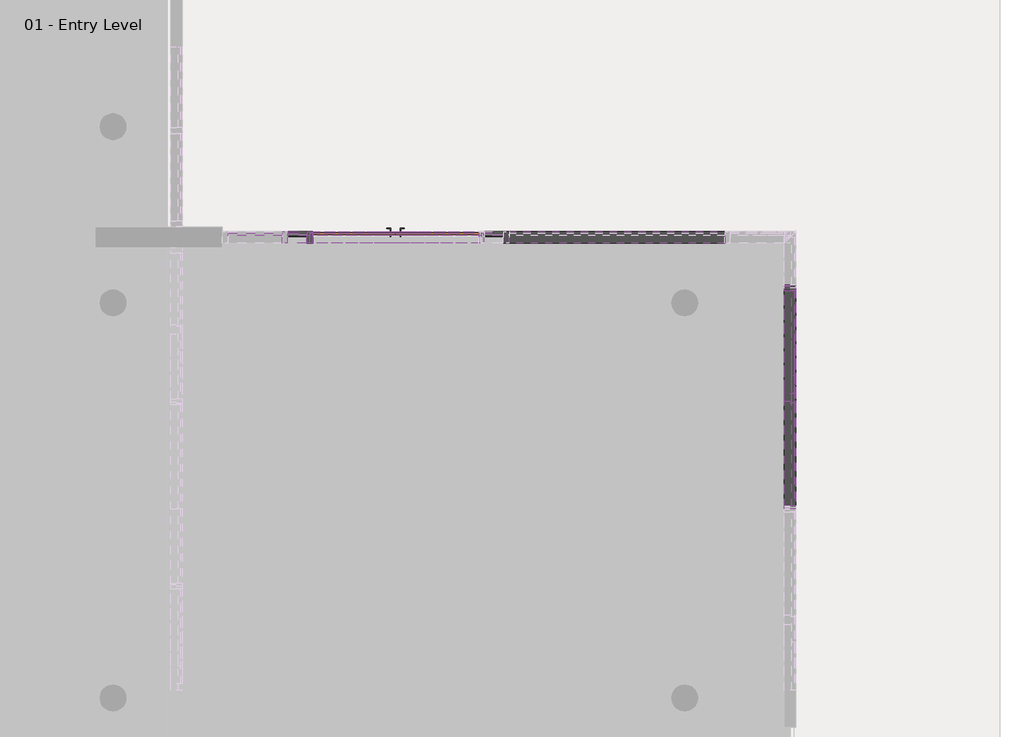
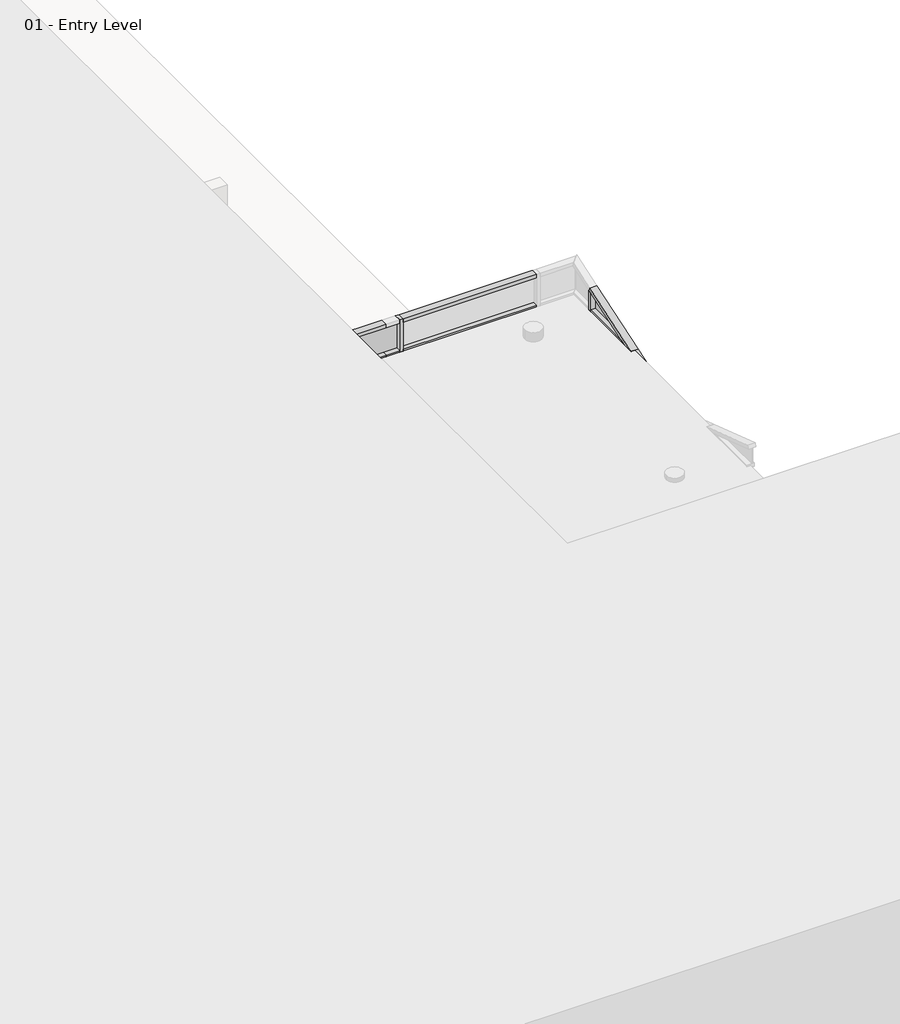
# One storey, part 16 of 34: 93 members, 29 plates, 1 door.
"""IFC4 building model written with IfcOpenShell, lengths in millimetres."""

from ifc_helpers import new_model, si_unit, origin, place, context, project, spatial, transform, mapped, element, save
from components import curtain_wall_dbl_glass_curtain_wall_dbl_glass_a5de0235, member_6e77e263, member_89bfb2f9, member_85cc6aa7, member_474f9ece, member_fce4fd76, member_056e3271, member_b2bde9e6, member_5d67b9fc, member_a5966c2a, member_aa396729, member_420b45ef, member_d60e8053, member_51dbde35, member_30b3e1b1, member_80bb9b3a, member_75d1e245, system_panel_glazed_1068a10c, system_panel_glazed_a178916c, system_panel_glazed_5992a3c5, system_panel_glazed_079f77b7, system_panel_glazed_0805a858, system_panel_glazed_439dd39a, system_panel_glazed_7ab8f380, system_panel_glazed_5ffb59d1, system_panel_glazed_9c9336f7, system_panel_glazed_ea9774ea

model = new_model("IFC4")

# Units and contexts
model_context = context("Model", 3, world=origin())
ifc_project = project(units=[si_unit("LENGTHUNIT", "METRE", prefix="MILLI")], contexts=[model_context])

# Site, building, storey
site = spatial("IfcSite", under=ifc_project)
building = spatial("IfcBuilding", under=site)
storey = spatial("IfcBuildingStorey", under=building, Name="01 - Entry Level", Elevation=0.0)

# Door
placement = place(None, origin())
curtain_wall_dbl_glass_curtain_wall_dbl_glass_shape = curtain_wall_dbl_glass_curtain_wall_dbl_glass_a5de0235(model_context)
element("IfcDoor", 1, ObjectType="Curtain Wall Dbl Glass : Curtain Wall Dbl Glass", at=placement, inside=storey, context=model_context, shape_type="MappedRepresentation", body=[
    mapped(curtain_wall_dbl_glass_curtain_wall_dbl_glass_shape, transform((19598.7615197, 22545.6, 0.0), x_axis=(-1.0, 0.0, 0.0), y_axis=(0.0, -1.0, 0.0), z_axis=(0.0, 0.0, 1.0))),
])

# Members
member_shape = member_6e77e263(model_context)
element("IfcMember", 2, ObjectType="Rectangular Mullion : 2.5\" x 5\" rectangular", at=placement, inside=storey, context=model_context, shape_type="MappedRepresentation", body=[
    mapped(member_shape, transform((20817.9615197, 22545.6, 0.0), x_axis=(-1.0, 0.0, 0.0), y_axis=(0.0, 1.0, 0.0), z_axis=(0.0, 0.0, -1.0))),
])
element("IfcMember", 3, ObjectType="Rectangular Mullion : 2.5\" x 5\" rectangular", at=placement, inside=storey, context=model_context, shape_type="MappedRepresentation", body=[
    mapped(member_shape, transform((23947.0115197, 21986.8, 0.0), x_axis=(0.0, 1.0, 0.0), y_axis=(1.0, 0.0, 0.0), z_axis=(0.0, 0.0, -1.0))),
])
element("IfcMember", 4, ObjectType="Rectangular Mullion : 2.5\" x 5\" rectangular", at=placement, inside=storey, context=model_context, shape_type="MappedRepresentation", body=[
    mapped(member_shape, transform((20817.9615197, 22545.6, 609.6), x_axis=(-1.0, 0.0, 0.0), y_axis=(0.0, 1.0, 0.0), z_axis=(0.0, 0.0, -1.0))),
])
element("IfcMember", 5, ObjectType="Rectangular Mullion : 2.5\" x 5\" rectangular", at=placement, inside=storey, context=model_context, shape_type="MappedRepresentation", body=[
    mapped(member_shape, transform((20817.9615197, 22545.6, 1219.2), x_axis=(-1.0, 0.0, 0.0), y_axis=(0.0, 1.0, 0.0), z_axis=(0.0, 0.0, -1.0))),
])
element("IfcMember", 6, ObjectType="Rectangular Mullion : 2.5\" x 5\" rectangular", at=placement, inside=storey, context=model_context, shape_type="MappedRepresentation", body=[
    mapped(member_shape, transform((18379.5615197, 22545.6, 1219.2), x_axis=(-1.0, 0.0, 0.0), y_axis=(0.0, 1.0, 0.0), z_axis=(0.0, 0.0, -1.0))),
])
element("IfcMember", 7, ObjectType="Rectangular Mullion : 2.5\" x 5\" rectangular", at=placement, inside=storey, context=model_context, shape_type="MappedRepresentation", body=[
    mapped(member_shape, transform((20817.9615197, 22545.6, 2438.4), x_axis=(-1.0, 0.0, 0.0), y_axis=(0.0, 1.0, 0.0), z_axis=(0.0, 0.0, -1.0))),
])
element("IfcMember", 8, ObjectType="Rectangular Mullion : 2.5\" x 5\" rectangular", at=placement, inside=storey, context=model_context, shape_type="MappedRepresentation", body=[
    mapped(member_shape, transform((18379.5615197, 22545.6, 2438.4), x_axis=(-1.0, 0.0, 0.0), y_axis=(0.0, 1.0, 0.0), z_axis=(0.0, 0.0, -1.0))),
])
element("IfcMember", 9, ObjectType="Rectangular Mullion : 2.5\" x 5\" rectangular", at=placement, inside=storey, context=model_context, shape_type="MappedRepresentation", body=[
    mapped(member_shape, transform((20817.9615197, 22545.6, 3048.0), x_axis=(-1.0, 0.0, 0.0), y_axis=(0.0, 1.0, 0.0), z_axis=(0.0, 0.0, -1.0))),
])
element("IfcMember", 10, ObjectType="Rectangular Mullion : 2.5\" x 5\" rectangular", at=placement, inside=storey, context=model_context, shape_type="MappedRepresentation", body=[
    mapped(member_shape, transform((18379.5615197, 22545.6, 3048.0), x_axis=(-1.0, 0.0, 0.0), y_axis=(0.0, 1.0, 0.0), z_axis=(0.0, 0.0, -1.0))),
])
element("IfcMember", 11, ObjectType="Rectangular Mullion : 2.5\" x 5\" rectangular", at=placement, inside=storey, context=model_context, shape_type="MappedRepresentation", body=[
    mapped(member_shape, transform((23947.0115197, 21986.8, 609.6), x_axis=(0.0, 1.0, 0.0), y_axis=(1.0, 0.0, 0.0), z_axis=(0.0, 0.0, -1.0))),
])
element("IfcMember", 12, ObjectType="Rectangular Mullion : 2.5\" x 5\" rectangular", at=placement, inside=storey, context=model_context, shape_type="MappedRepresentation", body=[
    mapped(member_shape, transform((23947.0115197, 21986.8, 1219.2), x_axis=(0.0, 1.0, 0.0), y_axis=(1.0, 0.0, 0.0), z_axis=(0.0, 0.0, -1.0))),
])
element("IfcMember", 13, ObjectType="Rectangular Mullion : 2.5\" x 5\" rectangular", at=placement, inside=storey, context=model_context, shape_type="MappedRepresentation", body=[
    mapped(member_shape, transform((23947.0115197, 21986.8, 1828.8), x_axis=(0.0, 1.0, 0.0), y_axis=(1.0, 0.0, 0.0), z_axis=(0.0, 0.0, -1.0))),
])
element("IfcMember", 14, ObjectType="Rectangular Mullion : 2.5\" x 5\" rectangular", at=placement, inside=storey, context=model_context, shape_type="MappedRepresentation", body=[
    mapped(member_shape, transform((23947.0115197, 21986.8, 2438.4), x_axis=(0.0, 1.0, 0.0), y_axis=(1.0, 0.0, 0.0), z_axis=(0.0, 0.0, -1.0))),
])
element("IfcMember", 15, ObjectType="Rectangular Mullion : 2.5\" x 5\" rectangular", at=placement, inside=storey, context=model_context, shape_type="MappedRepresentation", body=[
    mapped(member_shape, transform((23947.0115197, 21986.8, 3048.0), x_axis=(0.0, 1.0, 0.0), y_axis=(1.0, 0.0, 0.0), z_axis=(0.0, 0.0, -1.0))),
])
element("IfcMember", 16, ObjectType="Rectangular Mullion : 2.5\" x 5\" rectangular", at=placement, inside=storey, context=model_context, shape_type="MappedRepresentation", body=[
    mapped(member_shape, transform((23947.0115197, 21986.8, 3657.6), x_axis=(0.0, 1.0, 0.0), y_axis=(1.0, 0.0, 0.0), z_axis=(0.0, 0.0, -1.0))),
])
element("IfcMember", 17, ObjectType="Rectangular Mullion : 2.5\" x 5\" rectangular", at=placement, inside=storey, context=model_context, shape_type="MappedRepresentation", body=[
    mapped(member_shape, transform((23947.0115197, 21986.8, 4267.2), x_axis=(0.0, 1.0, 0.0), y_axis=(1.0, 0.0, 0.0), z_axis=(0.0, 0.0, -1.0))),
])
element("IfcMember", 18, ObjectType="Rectangular Mullion : 2.5\" x 5\" rectangular", at=placement, inside=storey, context=model_context, shape_type="MappedRepresentation", body=[
    mapped(member_shape, transform((23947.0115197, 21986.8, 4876.8), x_axis=(0.0, 1.0, 0.0), y_axis=(1.0, 0.0, 0.0), z_axis=(0.0, 0.0, -1.0))),
])
element("IfcMember", 19, ObjectType="Rectangular Mullion : 2.5\" x 5\" rectangular", at=placement, inside=storey, context=model_context, shape_type="MappedRepresentation", body=[
    mapped(member_shape, transform((23947.0115197, 21986.8, 5486.4), x_axis=(0.0, 1.0, 0.0), y_axis=(1.0, 0.0, 0.0), z_axis=(0.0, 0.0, -1.0))),
])
element("IfcMember", 20, ObjectType="Rectangular Mullion : 2.5\" x 5\" rectangular", at=placement, inside=storey, context=model_context, shape_type="MappedRepresentation", body=[
    mapped(member_shape, transform((23947.0115197, 21986.8, 6096.0), x_axis=(0.0, 1.0, 0.0), y_axis=(1.0, 0.0, 0.0), z_axis=(0.0, 0.0, -1.0))),
])
element("IfcMember", 21, ObjectType="Rectangular Mullion : 2.5\" x 5\" rectangular", at=placement, inside=storey, context=model_context, shape_type="MappedRepresentation", body=[
    mapped(member_shape, transform((20817.9615197, 22545.6, 3657.6), x_axis=(-1.0, 0.0, 0.0), y_axis=(0.0, 1.0, 0.0), z_axis=(0.0, 0.0, -1.0))),
])
element("IfcMember", 22, ObjectType="Rectangular Mullion : 2.5\" x 5\" rectangular", at=placement, inside=storey, context=model_context, shape_type="MappedRepresentation", body=[
    mapped(member_shape, transform((20817.9615197, 22545.6, 4267.2), x_axis=(-1.0, 0.0, 0.0), y_axis=(0.0, 1.0, 0.0), z_axis=(0.0, 0.0, -1.0))),
])
element("IfcMember", 23, ObjectType="Rectangular Mullion : 2.5\" x 5\" rectangular", at=placement, inside=storey, context=model_context, shape_type="MappedRepresentation", body=[
    mapped(member_shape, transform((20817.9615197, 22545.6, 4876.8), x_axis=(-1.0, 0.0, 0.0), y_axis=(0.0, 1.0, 0.0), z_axis=(0.0, 0.0, -1.0))),
])
element("IfcMember", 24, ObjectType="Rectangular Mullion : 2.5\" x 5\" rectangular", at=placement, inside=storey, context=model_context, shape_type="MappedRepresentation", body=[
    mapped(member_shape, transform((20817.9615197, 22545.6, 5486.4), x_axis=(-1.0, 0.0, 0.0), y_axis=(0.0, 1.0, 0.0), z_axis=(0.0, 0.0, -1.0))),
])
element("IfcMember", 25, ObjectType="Rectangular Mullion : 2.5\" x 5\" rectangular", at=placement, inside=storey, context=model_context, shape_type="MappedRepresentation", body=[
    mapped(member_shape, transform((20817.9615197, 22545.6, 6096.0), x_axis=(-1.0, 0.0, 0.0), y_axis=(0.0, 1.0, 0.0), z_axis=(0.0, 0.0, -1.0))),
])
element("IfcMember", 26, ObjectType="Rectangular Mullion : 2.5\" x 5\" rectangular", at=placement, inside=storey, context=model_context, shape_type="MappedRepresentation", body=[
    mapped(member_shape, transform((18379.5615197, 22545.6, 3657.6), x_axis=(-1.0, 0.0, 0.0), y_axis=(0.0, 1.0, 0.0), z_axis=(0.0, 0.0, -1.0))),
])
element("IfcMember", 27, ObjectType="Rectangular Mullion : 2.5\" x 5\" rectangular", at=placement, inside=storey, context=model_context, shape_type="MappedRepresentation", body=[
    mapped(member_shape, transform((18379.5615197, 22545.6, 4267.2), x_axis=(-1.0, 0.0, 0.0), y_axis=(0.0, 1.0, 0.0), z_axis=(0.0, 0.0, -1.0))),
])
element("IfcMember", 28, ObjectType="Rectangular Mullion : 2.5\" x 5\" rectangular", at=placement, inside=storey, context=model_context, shape_type="MappedRepresentation", body=[
    mapped(member_shape, transform((18379.5615197, 22545.6, 4876.8), x_axis=(-1.0, 0.0, 0.0), y_axis=(0.0, 1.0, 0.0), z_axis=(0.0, 0.0, -1.0))),
])
element("IfcMember", 29, ObjectType="Rectangular Mullion : 2.5\" x 5\" rectangular", at=placement, inside=storey, context=model_context, shape_type="MappedRepresentation", body=[
    mapped(member_shape, transform((18379.5615197, 22545.6, 5486.4), x_axis=(-1.0, 0.0, 0.0), y_axis=(0.0, 1.0, 0.0), z_axis=(0.0, 0.0, -1.0))),
])
element("IfcMember", 30, ObjectType="Rectangular Mullion : 2.5\" x 5\" rectangular", at=placement, inside=storey, context=model_context, shape_type="MappedRepresentation", body=[
    mapped(member_shape, transform((18379.5615197, 22545.6, 6096.0), x_axis=(-1.0, 0.0, 0.0), y_axis=(0.0, 1.0, 0.0), z_axis=(0.0, 0.0, -1.0))),
])
member_2_shape = member_89bfb2f9(model_context)
element("IfcMember", 31, ObjectType="Rectangular Mullion : 2.5\" x 5\" rectangular", at=placement, inside=storey, context=model_context, shape_type="MappedRepresentation", body=[
    mapped(member_2_shape, transform((20849.7115197, 22545.6, 609.6), x_axis=(0.0, 0.0, 1.0), y_axis=(0.0, 1.0, 0.0), z_axis=(-1.0, 0.0, 0.0))),
])
element("IfcMember", 32, ObjectType="Rectangular Mullion : 2.5\" x 5\" rectangular", at=placement, inside=storey, context=model_context, shape_type="MappedRepresentation", body=[
    mapped(member_2_shape, transform((20849.7115197, 22545.6, 1219.2), x_axis=(0.0, 0.0, 1.0), y_axis=(0.0, 1.0, 0.0), z_axis=(-1.0, 0.0, 0.0))),
])
element("IfcMember", 33, ObjectType="Rectangular Mullion : 2.5\" x 5\" rectangular", at=placement, inside=storey, context=model_context, shape_type="MappedRepresentation", body=[
    mapped(member_2_shape, transform((20849.7115197, 22545.6, 1828.8), x_axis=(0.0, 0.0, 1.0), y_axis=(0.0, 1.0, 0.0), z_axis=(-1.0, 0.0, 0.0))),
])
element("IfcMember", 34, ObjectType="Rectangular Mullion : 2.5\" x 5\" rectangular", at=placement, inside=storey, context=model_context, shape_type="MappedRepresentation", body=[
    mapped(member_2_shape, transform((20849.7115197, 22545.6, 2438.4), x_axis=(0.0, 0.0, 1.0), y_axis=(0.0, 1.0, 0.0), z_axis=(-1.0, 0.0, 0.0))),
])
element("IfcMember", 35, ObjectType="Rectangular Mullion : 2.5\" x 5\" rectangular", at=placement, inside=storey, context=model_context, shape_type="MappedRepresentation", body=[
    mapped(member_2_shape, transform((20849.7115197, 22545.6, 3048.0), x_axis=(0.0, 0.0, 1.0), y_axis=(0.0, 1.0, 0.0), z_axis=(-1.0, 0.0, 0.0))),
])
element("IfcMember", 36, ObjectType="Rectangular Mullion : 2.5\" x 5\" rectangular", at=placement, inside=storey, context=model_context, shape_type="MappedRepresentation", body=[
    mapped(member_2_shape, transform((23947.0115197, 21955.05, 609.6), x_axis=(0.0, 0.0, 1.0), y_axis=(1.0, 0.0, 0.0), z_axis=(0.0, 1.0, 0.0))),
])
element("IfcMember", 37, ObjectType="Rectangular Mullion : 2.5\" x 5\" rectangular", at=placement, inside=storey, context=model_context, shape_type="MappedRepresentation", body=[
    mapped(member_2_shape, transform((23947.0115197, 21955.05, 1219.2), x_axis=(0.0, 0.0, 1.0), y_axis=(1.0, 0.0, 0.0), z_axis=(0.0, 1.0, 0.0))),
])
element("IfcMember", 38, ObjectType="Rectangular Mullion : 2.5\" x 5\" rectangular", at=placement, inside=storey, context=model_context, shape_type="MappedRepresentation", body=[
    mapped(member_2_shape, transform((23947.0115197, 21955.05, 1828.8), x_axis=(0.0, 0.0, 1.0), y_axis=(1.0, 0.0, 0.0), z_axis=(0.0, 1.0, 0.0))),
])
element("IfcMember", 39, ObjectType="Rectangular Mullion : 2.5\" x 5\" rectangular", at=placement, inside=storey, context=model_context, shape_type="MappedRepresentation", body=[
    mapped(member_2_shape, transform((23947.0115197, 21955.05, 2438.4), x_axis=(0.0, 0.0, 1.0), y_axis=(1.0, 0.0, 0.0), z_axis=(0.0, 1.0, 0.0))),
])
element("IfcMember", 40, ObjectType="Rectangular Mullion : 2.5\" x 5\" rectangular", at=placement, inside=storey, context=model_context, shape_type="MappedRepresentation", body=[
    mapped(member_2_shape, transform((23947.0115197, 21955.05, 3048.0), x_axis=(0.0, 0.0, 1.0), y_axis=(1.0, 0.0, 0.0), z_axis=(0.0, 1.0, 0.0))),
])
element("IfcMember", 41, ObjectType="Rectangular Mullion : 2.5\" x 5\" rectangular", at=placement, inside=storey, context=model_context, shape_type="MappedRepresentation", body=[
    mapped(member_2_shape, transform((23947.0115197, 21955.05, 3657.6), x_axis=(0.0, 0.0, 1.0), y_axis=(1.0, 0.0, 0.0), z_axis=(0.0, 1.0, 0.0))),
])
element("IfcMember", 42, ObjectType="Rectangular Mullion : 2.5\" x 5\" rectangular", at=placement, inside=storey, context=model_context, shape_type="MappedRepresentation", body=[
    mapped(member_2_shape, transform((23947.0115197, 21955.05, 4267.2), x_axis=(0.0, 0.0, 1.0), y_axis=(1.0, 0.0, 0.0), z_axis=(0.0, 1.0, 0.0))),
])
element("IfcMember", 43, ObjectType="Rectangular Mullion : 2.5\" x 5\" rectangular", at=placement, inside=storey, context=model_context, shape_type="MappedRepresentation", body=[
    mapped(member_2_shape, transform((23947.0115197, 21955.05, 4876.8), x_axis=(0.0, 0.0, 1.0), y_axis=(1.0, 0.0, 0.0), z_axis=(0.0, 1.0, 0.0))),
])
element("IfcMember", 44, ObjectType="Rectangular Mullion : 2.5\" x 5\" rectangular", at=placement, inside=storey, context=model_context, shape_type="MappedRepresentation", body=[
    mapped(member_2_shape, transform((23947.0115197, 21955.05, 5486.4), x_axis=(0.0, 0.0, 1.0), y_axis=(1.0, 0.0, 0.0), z_axis=(0.0, 1.0, 0.0))),
])
element("IfcMember", 45, ObjectType="Rectangular Mullion : 2.5\" x 5\" rectangular", at=placement, inside=storey, context=model_context, shape_type="MappedRepresentation", body=[
    mapped(member_2_shape, transform((23947.0115197, 21955.05, 6096.0), x_axis=(0.0, 0.0, 1.0), y_axis=(1.0, 0.0, 0.0), z_axis=(0.0, 1.0, 0.0))),
])
element("IfcMember", 46, ObjectType="Rectangular Mullion : 2.5\" x 5\" rectangular", at=placement, inside=storey, context=model_context, shape_type="MappedRepresentation", body=[
    mapped(member_2_shape, transform((20849.7115197, 22545.6, 3657.6), x_axis=(0.0, 0.0, 1.0), y_axis=(0.0, 1.0, 0.0), z_axis=(-1.0, 0.0, 0.0))),
])
element("IfcMember", 47, ObjectType="Rectangular Mullion : 2.5\" x 5\" rectangular", at=placement, inside=storey, context=model_context, shape_type="MappedRepresentation", body=[
    mapped(member_2_shape, transform((20849.7115197, 22545.6, 4267.2), x_axis=(0.0, 0.0, 1.0), y_axis=(0.0, 1.0, 0.0), z_axis=(-1.0, 0.0, 0.0))),
])
element("IfcMember", 48, ObjectType="Rectangular Mullion : 2.5\" x 5\" rectangular", at=placement, inside=storey, context=model_context, shape_type="MappedRepresentation", body=[
    mapped(member_2_shape, transform((20849.7115197, 22545.6, 4876.8), x_axis=(0.0, 0.0, 1.0), y_axis=(0.0, 1.0, 0.0), z_axis=(-1.0, 0.0, 0.0))),
])
element("IfcMember", 49, ObjectType="Rectangular Mullion : 2.5\" x 5\" rectangular", at=placement, inside=storey, context=model_context, shape_type="MappedRepresentation", body=[
    mapped(member_2_shape, transform((20849.7115197, 22545.6, 5486.4), x_axis=(0.0, 0.0, 1.0), y_axis=(0.0, 1.0, 0.0), z_axis=(-1.0, 0.0, 0.0))),
])
element("IfcMember", 50, ObjectType="Rectangular Mullion : 2.5\" x 5\" rectangular", at=placement, inside=storey, context=model_context, shape_type="MappedRepresentation", body=[
    mapped(member_2_shape, transform((20849.7115197, 22545.6, 6096.0), x_axis=(0.0, 0.0, 1.0), y_axis=(0.0, 1.0, 0.0), z_axis=(-1.0, 0.0, 0.0))),
])
element("IfcMember", 51, ObjectType="Rectangular Mullion : 2.5\" x 5\" rectangular", at=placement, inside=storey, context=model_context, shape_type="MappedRepresentation", body=[
    mapped(member_2_shape, transform((20849.7115197, 22545.6, 6705.6), x_axis=(0.0, 0.0, 1.0), y_axis=(0.0, 1.0, 0.0), z_axis=(-1.0, 0.0, 0.0))),
])
member_3_shape = member_85cc6aa7(model_context)
element("IfcMember", 52, ObjectType="Rectangular Mullion : 2.5\" x 5\" rectangular", at=placement, inside=storey, context=model_context, shape_type="MappedRepresentation", body=[
    mapped(member_3_shape, transform((23947.0115197, 20716.8, 6705.6), x_axis=(0.0, -0.316227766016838, 0.9486832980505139), y_axis=(1.0, 0.0, 0.0), z_axis=(0.0, 0.9486832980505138, 0.31622776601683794))),
])
member_4_shape = member_474f9ece(model_context)
element("IfcMember", 53, ObjectType="Rectangular Mullion : 2.5\" x 5\" rectangular", at=placement, inside=storey, context=model_context, shape_type="MappedRepresentation", body=[
    mapped(member_4_shape, transform((23947.0115197, 21955.05, 6705.6), x_axis=(0.0, 0.0, 1.0), y_axis=(1.0, 0.0, 0.0), z_axis=(0.0, 1.0, 0.0))),
])
member_5_shape = member_fce4fd76(model_context)
element("IfcMember", 54, ObjectType="Rectangular Mullion : 2.5\" x 5\" rectangular", at=placement, inside=storey, context=model_context, shape_type="MappedRepresentation", body=[
    mapped(member_5_shape, transform((23947.0115197, 21986.8, 7128.9333333), x_axis=(0.0, -0.31622776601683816, 0.9486832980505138), y_axis=(1.0, 0.0, 0.0), z_axis=(0.0, 0.9486832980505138, 0.31622776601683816))),
])
member_6_shape = member_056e3271(model_context)
element("IfcMember", 55, ObjectType="Rectangular Mullion : 2.5\" x 5\" rectangular", at=placement, inside=storey, context=model_context, shape_type="MappedRepresentation", body=[
    mapped(member_6_shape, transform((23947.0115197, 21986.8, 6705.6), x_axis=(0.0, 1.0, 0.0), y_axis=(1.0, 0.0, 0.0), z_axis=(0.0, 0.0, -1.0))),
])
member_7_shape = member_b2bde9e6(model_context)
element("IfcMember", 56, ObjectType="Rectangular Mullion : 2.5\" x 5\" rectangular", at=placement, inside=storey, context=model_context, shape_type="MappedRepresentation", body=[
    mapped(member_7_shape, transform((20849.7115197, 22545.6, 7315.2), x_axis=(0.0, 0.0, 1.0), y_axis=(0.0, 1.0, 0.0), z_axis=(-1.0, 0.0, 0.0))),
])
element("IfcMember", 57, ObjectType="Rectangular Mullion : 2.5\" x 5\" rectangular", at=placement, inside=storey, context=model_context, shape_type="MappedRepresentation", body=[
    mapped(member_shape, transform((20817.9615197, 22545.6, 6705.6), x_axis=(-1.0, 0.0, 0.0), y_axis=(0.0, 1.0, 0.0), z_axis=(0.0, 0.0, -1.0))),
])
element("IfcMember", 58, ObjectType="Rectangular Mullion : 2.5\" x 5\" rectangular", at=placement, inside=storey, context=model_context, shape_type="MappedRepresentation", body=[
    mapped(member_shape, transform((18379.5615197, 22545.6, 6705.6), x_axis=(-1.0, 0.0, 0.0), y_axis=(0.0, 1.0, 0.0), z_axis=(0.0, 0.0, -1.0))),
])
member_8_shape = member_5d67b9fc(model_context)
element("IfcMember", 59, ObjectType="Rectangular Mullion : 2.5\" x 5\" rectangular", at=placement, inside=storey, context=model_context, shape_type="MappedRepresentation", body=[
    mapped(member_8_shape, transform((18379.5615197, 22545.6, 2165.35), x_axis=(-1.0, 0.0, 0.0), y_axis=(0.0, 1.0, 0.0), z_axis=(0.0, 0.0, -1.0))),
])
member_9_shape = member_a5966c2a(model_context)
element("IfcMember", 60, ObjectType="Rectangular Mullion : 2.5\" x 5\" rectangular", at=placement, inside=storey, context=model_context, shape_type="MappedRepresentation", body=[
    mapped(member_9_shape, transform((20576.6615197, 22545.6, 2438.4), x_axis=(0.0, 0.0, 1.0), y_axis=(0.0, 1.0, 0.0), z_axis=(-1.0, 0.0, 0.0))),
])
element("IfcMember", 61, ObjectType="Rectangular Mullion : 2.5\" x 5\" rectangular", at=placement, inside=storey, context=model_context, shape_type="MappedRepresentation", body=[
    mapped(member_9_shape, transform((18411.3115197, 22545.6, 2438.4), x_axis=(0.0, 0.0, 1.0), y_axis=(0.0, 1.0, 0.0), z_axis=(-1.0, 0.0, 0.0))),
])
member_10_shape = member_aa396729(model_context)
element("IfcMember", 62, ObjectType="Rectangular Mullion : 2.5\" x 5\" rectangular", at=placement, inside=storey, context=model_context, shape_type="MappedRepresentation", body=[
    mapped(member_10_shape, transform((20544.9115197, 22545.6, 3048.0), x_axis=(0.0, 0.0, 1.0), y_axis=(0.0, 1.0, 0.0), z_axis=(-1.0, 0.0, 0.0))),
])
element("IfcMember", 63, ObjectType="Rectangular Mullion : 2.5\" x 5\" rectangular", at=placement, inside=storey, context=model_context, shape_type="MappedRepresentation", body=[
    mapped(member_10_shape, transform((20544.9115197, 22545.6, 3657.6), x_axis=(0.0, 0.0, 1.0), y_axis=(0.0, 1.0, 0.0), z_axis=(-1.0, 0.0, 0.0))),
])
element("IfcMember", 64, ObjectType="Rectangular Mullion : 2.5\" x 5\" rectangular", at=placement, inside=storey, context=model_context, shape_type="MappedRepresentation", body=[
    mapped(member_10_shape, transform((20544.9115197, 22545.6, 4267.2), x_axis=(0.0, 0.0, 1.0), y_axis=(0.0, 1.0, 0.0), z_axis=(-1.0, 0.0, 0.0))),
])
element("IfcMember", 65, ObjectType="Rectangular Mullion : 2.5\" x 5\" rectangular", at=placement, inside=storey, context=model_context, shape_type="MappedRepresentation", body=[
    mapped(member_10_shape, transform((20544.9115197, 22545.6, 4876.8), x_axis=(0.0, 0.0, 1.0), y_axis=(0.0, 1.0, 0.0), z_axis=(-1.0, 0.0, 0.0))),
])
element("IfcMember", 66, ObjectType="Rectangular Mullion : 2.5\" x 5\" rectangular", at=placement, inside=storey, context=model_context, shape_type="MappedRepresentation", body=[
    mapped(member_10_shape, transform((20544.9115197, 22545.6, 5486.4), x_axis=(0.0, 0.0, 1.0), y_axis=(0.0, 1.0, 0.0), z_axis=(-1.0, 0.0, 0.0))),
])
element("IfcMember", 67, ObjectType="Rectangular Mullion : 2.5\" x 5\" rectangular", at=placement, inside=storey, context=model_context, shape_type="MappedRepresentation", body=[
    mapped(member_10_shape, transform((20544.9115197, 22545.6, 6096.0), x_axis=(0.0, 0.0, 1.0), y_axis=(0.0, 1.0, 0.0), z_axis=(-1.0, 0.0, 0.0))),
])
element("IfcMember", 68, ObjectType="Rectangular Mullion : 2.5\" x 5\" rectangular", at=placement, inside=storey, context=model_context, shape_type="MappedRepresentation", body=[
    mapped(member_10_shape, transform((20544.9115197, 22545.6, 6705.6), x_axis=(0.0, 0.0, 1.0), y_axis=(0.0, 1.0, 0.0), z_axis=(-1.0, 0.0, 0.0))),
])
member_11_shape = member_420b45ef(model_context)
element("IfcMember", 69, ObjectType="Rectangular Mullion : 2.5\" x 5\" rectangular", at=placement, inside=storey, context=model_context, shape_type="MappedRepresentation", body=[
    mapped(member_11_shape, transform((20786.2115197, 22545.6, 0.0), x_axis=(0.0, 0.0, -1.0), y_axis=(0.0, 1.0, 0.0), z_axis=(1.0, 0.0, 0.0))),
])
element("IfcMember", 70, ObjectType="Rectangular Mullion : 2.5\" x 5\" rectangular", at=placement, inside=storey, context=model_context, shape_type="MappedRepresentation", body=[
    mapped(member_11_shape, transform((18620.8615197, 22545.6, 0.0), x_axis=(0.0, 0.0, -1.0), y_axis=(0.0, 1.0, 0.0), z_axis=(1.0, 0.0, 0.0))),
])
element("IfcMember", 71, ObjectType="Rectangular Mullion : 2.5\" x 5\" rectangular", at=placement, inside=storey, context=model_context, shape_type="MappedRepresentation", body=[
    mapped(member_10_shape, transform((18411.3115197, 22545.6, 3048.0), x_axis=(0.0, 0.0, 1.0), y_axis=(0.0, 1.0, 0.0), z_axis=(-1.0, 0.0, 0.0))),
])
element("IfcMember", 72, ObjectType="Rectangular Mullion : 2.5\" x 5\" rectangular", at=placement, inside=storey, context=model_context, shape_type="MappedRepresentation", body=[
    mapped(member_10_shape, transform((18411.3115197, 22545.6, 3657.6), x_axis=(0.0, 0.0, 1.0), y_axis=(0.0, 1.0, 0.0), z_axis=(-1.0, 0.0, 0.0))),
])
element("IfcMember", 73, ObjectType="Rectangular Mullion : 2.5\" x 5\" rectangular", at=placement, inside=storey, context=model_context, shape_type="MappedRepresentation", body=[
    mapped(member_10_shape, transform((18411.3115197, 22545.6, 4267.2), x_axis=(0.0, 0.0, 1.0), y_axis=(0.0, 1.0, 0.0), z_axis=(-1.0, 0.0, 0.0))),
])
element("IfcMember", 74, ObjectType="Rectangular Mullion : 2.5\" x 5\" rectangular", at=placement, inside=storey, context=model_context, shape_type="MappedRepresentation", body=[
    mapped(member_10_shape, transform((18411.3115197, 22545.6, 4876.8), x_axis=(0.0, 0.0, 1.0), y_axis=(0.0, 1.0, 0.0), z_axis=(-1.0, 0.0, 0.0))),
])
element("IfcMember", 75, ObjectType="Rectangular Mullion : 2.5\" x 5\" rectangular", at=placement, inside=storey, context=model_context, shape_type="MappedRepresentation", body=[
    mapped(member_10_shape, transform((18411.3115197, 22545.6, 5486.4), x_axis=(0.0, 0.0, 1.0), y_axis=(0.0, 1.0, 0.0), z_axis=(-1.0, 0.0, 0.0))),
])
element("IfcMember", 76, ObjectType="Rectangular Mullion : 2.5\" x 5\" rectangular", at=placement, inside=storey, context=model_context, shape_type="MappedRepresentation", body=[
    mapped(member_10_shape, transform((18411.3115197, 22545.6, 6096.0), x_axis=(0.0, 0.0, 1.0), y_axis=(0.0, 1.0, 0.0), z_axis=(-1.0, 0.0, 0.0))),
])
element("IfcMember", 77, ObjectType="Rectangular Mullion : 2.5\" x 5\" rectangular", at=placement, inside=storey, context=model_context, shape_type="MappedRepresentation", body=[
    mapped(member_10_shape, transform((18411.3115197, 22545.6, 6705.6), x_axis=(0.0, 0.0, 1.0), y_axis=(0.0, 1.0, 0.0), z_axis=(-1.0, 0.0, 0.0))),
])
member_12_shape = member_d60e8053(model_context)
element("IfcMember", 78, ObjectType="Rectangular Mullion : 2.5\" x 5\" rectangular", at=placement, inside=storey, context=model_context, shape_type="MappedRepresentation", body=[
    mapped(member_12_shape, transform((18684.3615197, 22545.6, 2438.4), x_axis=(0.0, 0.0, 1.0), y_axis=(0.0, 1.0, 0.0), z_axis=(-1.0, 0.0, 0.0))),
])
element("IfcMember", 79, ObjectType="Rectangular Mullion : 2.5\" x 5\" rectangular", at=placement, inside=storey, context=model_context, shape_type="MappedRepresentation", body=[
    mapped(member_12_shape, transform((18684.3615197, 22545.6, 2165.35), x_axis=(0.0, 0.0, 1.0), y_axis=(0.0, 1.0, 0.0), z_axis=(-1.0, 0.0, 0.0))),
])
member_13_shape = member_51dbde35(model_context)
element("IfcMember", 80, ObjectType="Rectangular Mullion : 2.5\" x 5\" rectangular", at=placement, inside=storey, context=model_context, shape_type="MappedRepresentation", body=[
    mapped(member_13_shape, transform((18652.6115197, 22545.6, 3048.0), x_axis=(0.0, 0.0, 1.0), y_axis=(0.0, 1.0, 0.0), z_axis=(-1.0, 0.0, 0.0))),
])
element("IfcMember", 81, ObjectType="Rectangular Mullion : 2.5\" x 5\" rectangular", at=placement, inside=storey, context=model_context, shape_type="MappedRepresentation", body=[
    mapped(member_13_shape, transform((18652.6115197, 22545.6, 3657.6), x_axis=(0.0, 0.0, 1.0), y_axis=(0.0, 1.0, 0.0), z_axis=(-1.0, 0.0, 0.0))),
])
element("IfcMember", 82, ObjectType="Rectangular Mullion : 2.5\" x 5\" rectangular", at=placement, inside=storey, context=model_context, shape_type="MappedRepresentation", body=[
    mapped(member_13_shape, transform((18652.6115197, 22545.6, 4267.2), x_axis=(0.0, 0.0, 1.0), y_axis=(0.0, 1.0, 0.0), z_axis=(-1.0, 0.0, 0.0))),
])
element("IfcMember", 83, ObjectType="Rectangular Mullion : 2.5\" x 5\" rectangular", at=placement, inside=storey, context=model_context, shape_type="MappedRepresentation", body=[
    mapped(member_13_shape, transform((18652.6115197, 22545.6, 4876.8), x_axis=(0.0, 0.0, 1.0), y_axis=(0.0, 1.0, 0.0), z_axis=(-1.0, 0.0, 0.0))),
])
element("IfcMember", 84, ObjectType="Rectangular Mullion : 2.5\" x 5\" rectangular", at=placement, inside=storey, context=model_context, shape_type="MappedRepresentation", body=[
    mapped(member_13_shape, transform((18652.6115197, 22545.6, 5486.4), x_axis=(0.0, 0.0, 1.0), y_axis=(0.0, 1.0, 0.0), z_axis=(-1.0, 0.0, 0.0))),
])
element("IfcMember", 85, ObjectType="Rectangular Mullion : 2.5\" x 5\" rectangular", at=placement, inside=storey, context=model_context, shape_type="MappedRepresentation", body=[
    mapped(member_13_shape, transform((18652.6115197, 22545.6, 6096.0), x_axis=(0.0, 0.0, 1.0), y_axis=(0.0, 1.0, 0.0), z_axis=(-1.0, 0.0, 0.0))),
])
element("IfcMember", 86, ObjectType="Rectangular Mullion : 2.5\" x 5\" rectangular", at=placement, inside=storey, context=model_context, shape_type="MappedRepresentation", body=[
    mapped(member_13_shape, transform((18652.6115197, 22545.6, 6705.6), x_axis=(0.0, 0.0, 1.0), y_axis=(0.0, 1.0, 0.0), z_axis=(-1.0, 0.0, 0.0))),
])
member_14_shape = member_30b3e1b1(model_context)
element("IfcMember", 87, ObjectType="Rectangular Mullion : 2.5\" x 5\" rectangular", at=placement, inside=storey, context=model_context, shape_type="MappedRepresentation", body=[
    mapped(member_14_shape, transform((18652.6115197, 22545.6, 7315.2), x_axis=(0.0, 0.0, 1.0), y_axis=(0.0, 1.0, 0.0), z_axis=(-1.0, 0.0, 0.0))),
])
element("IfcMember", 88, ObjectType="Rectangular Mullion : 2.5\" x 5\" rectangular", at=placement, inside=storey, context=model_context, shape_type="MappedRepresentation", body=[
    mapped(member_shape, transform((18652.6115197, 22545.6, 609.6), x_axis=(-1.0, 0.0, 0.0), y_axis=(0.0, 1.0, 0.0), z_axis=(0.0, 0.0, -1.0))),
])
element("IfcMember", 89, ObjectType="Rectangular Mullion : 2.5\" x 5\" rectangular", at=placement, inside=storey, context=model_context, shape_type="MappedRepresentation", body=[
    mapped(member_shape, transform((18652.6115197, 22545.6, 1219.2), x_axis=(-1.0, 0.0, 0.0), y_axis=(0.0, 1.0, 0.0), z_axis=(0.0, 0.0, -1.0))),
])
element("IfcMember", 90, ObjectType="Rectangular Mullion : 2.5\" x 5\" rectangular", at=placement, inside=storey, context=model_context, shape_type="MappedRepresentation", body=[
    mapped(member_shape, transform((18652.6115197, 22545.6, 0.0), x_axis=(-1.0, 0.0, 0.0), y_axis=(0.0, 1.0, 0.0), z_axis=(0.0, 0.0, -1.0))),
])
member_15_shape = member_80bb9b3a(model_context)
element("IfcMember", 91, ObjectType="Rectangular Mullion : 2.5\" x 5\" rectangular", at=placement, inside=storey, context=model_context, shape_type="MappedRepresentation", body=[
    mapped(member_15_shape, transform((20817.9615197, 22545.6, 1828.8), x_axis=(-1.0, 0.0, 0.0), y_axis=(0.0, 1.0, 0.0), z_axis=(0.0, 0.0, -1.0))),
])
element("IfcMember", 92, ObjectType="Rectangular Mullion : 2.5\" x 5\" rectangular", at=placement, inside=storey, context=model_context, shape_type="MappedRepresentation", body=[
    mapped(member_15_shape, transform((18379.5615197, 22545.6, 1828.8), x_axis=(-1.0, 0.0, 0.0), y_axis=(0.0, 1.0, 0.0), z_axis=(0.0, 0.0, -1.0))),
])
element("IfcMember", 93, ObjectType="Rectangular Mullion : 2.5\" x 5\" rectangular", at=placement, inside=storey, context=model_context, shape_type="MappedRepresentation", body=[
    mapped(member_15_shape, transform((18652.6115197, 22545.6, 1828.8), x_axis=(-1.0, 0.0, 0.0), y_axis=(0.0, 1.0, 0.0), z_axis=(0.0, 0.0, -1.0))),
])
member_16_shape = member_75d1e245(model_context)
element("IfcMember", 94, ObjectType="Rectangular Mullion : 2.5\" x 5\" rectangular", at=placement, inside=storey, context=model_context, shape_type="MappedRepresentation", body=[
    mapped(member_16_shape, transform((18652.6115197, 22545.6, 2165.35), x_axis=(-1.0, 0.0, 0.0), y_axis=(0.0, 1.0, 0.0), z_axis=(0.0, 0.0, -1.0))),
])

# Plates
system_panel_glazed_shape = system_panel_glazed_1068a10c(model_context)
element("IfcPlate", 95, ObjectType="System Panel : Glazed", at=placement, inside=storey, context=model_context, shape_type="MappedRepresentation", body=[
    mapped(system_panel_glazed_shape, transform((23947.0115197, 20767.6, 63.5), x_axis=(0.0, 1.0, 0.0), y_axis=(-1.0, 0.0, 0.0), z_axis=(0.0, 0.0, 1.0))),
])
system_panel_glazed_2_shape = system_panel_glazed_a178916c(model_context)
element("IfcPlate", 96, ObjectType="System Panel : Glazed", at=placement, inside=storey, context=model_context, shape_type="MappedRepresentation", body=[
    mapped(system_panel_glazed_2_shape, transform((23947.0115197, 20767.6, 641.35), x_axis=(0.0, 1.0, 0.0), y_axis=(-1.0, 0.0, 0.0), z_axis=(0.0, 0.0, 1.0))),
])
element("IfcPlate", 97, ObjectType="System Panel : Glazed", at=placement, inside=storey, context=model_context, shape_type="MappedRepresentation", body=[
    mapped(system_panel_glazed_2_shape, transform((23947.0115197, 20767.6, 1250.95), x_axis=(0.0, 1.0, 0.0), y_axis=(-1.0, 0.0, 0.0), z_axis=(0.0, 0.0, 1.0))),
])
element("IfcPlate", 98, ObjectType="System Panel : Glazed", at=placement, inside=storey, context=model_context, shape_type="MappedRepresentation", body=[
    mapped(system_panel_glazed_2_shape, transform((23947.0115197, 20767.6, 1860.55), x_axis=(0.0, 1.0, 0.0), y_axis=(-1.0, 0.0, 0.0), z_axis=(0.0, 0.0, 1.0))),
])
element("IfcPlate", 99, ObjectType="System Panel : Glazed", at=placement, inside=storey, context=model_context, shape_type="MappedRepresentation", body=[
    mapped(system_panel_glazed_2_shape, transform((23947.0115197, 20767.6, 2470.15), x_axis=(0.0, 1.0, 0.0), y_axis=(-1.0, 0.0, 0.0), z_axis=(0.0, 0.0, 1.0))),
])
element("IfcPlate", 100, ObjectType="System Panel : Glazed", at=placement, inside=storey, context=model_context, shape_type="MappedRepresentation", body=[
    mapped(system_panel_glazed_2_shape, transform((23947.0115197, 20767.6, 3079.75), x_axis=(0.0, 1.0, 0.0), y_axis=(-1.0, 0.0, 0.0), z_axis=(0.0, 0.0, 1.0))),
])
element("IfcPlate", 101, ObjectType="System Panel : Glazed", at=placement, inside=storey, context=model_context, shape_type="MappedRepresentation", body=[
    mapped(system_panel_glazed_2_shape, transform((23947.0115197, 20767.6, 3689.35), x_axis=(0.0, 1.0, 0.0), y_axis=(-1.0, 0.0, 0.0), z_axis=(0.0, 0.0, 1.0))),
])
element("IfcPlate", 102, ObjectType="System Panel : Glazed", at=placement, inside=storey, context=model_context, shape_type="MappedRepresentation", body=[
    mapped(system_panel_glazed_2_shape, transform((23947.0115197, 20767.6, 4298.95), x_axis=(0.0, 1.0, 0.0), y_axis=(-1.0, 0.0, 0.0), z_axis=(0.0, 0.0, 1.0))),
])
element("IfcPlate", 103, ObjectType="System Panel : Glazed", at=placement, inside=storey, context=model_context, shape_type="MappedRepresentation", body=[
    mapped(system_panel_glazed_2_shape, transform((23947.0115197, 20767.6, 4908.55), x_axis=(0.0, 1.0, 0.0), y_axis=(-1.0, 0.0, 0.0), z_axis=(0.0, 0.0, 1.0))),
])
element("IfcPlate", 104, ObjectType="System Panel : Glazed", at=placement, inside=storey, context=model_context, shape_type="MappedRepresentation", body=[
    mapped(system_panel_glazed_2_shape, transform((23947.0115197, 20767.6, 5518.15), x_axis=(0.0, 1.0, 0.0), y_axis=(-1.0, 0.0, 0.0), z_axis=(0.0, 0.0, 1.0))),
])
system_panel_glazed_3_shape = system_panel_glazed_5992a3c5(model_context)
element("IfcPlate", 105, ObjectType="System Panel : Glazed", at=placement, inside=storey, context=model_context, shape_type="MappedRepresentation", body=[
    mapped(system_panel_glazed_3_shape, transform((23947.0115197, 20767.6, 6127.75), x_axis=(0.0, 1.0, 0.0), y_axis=(-1.0, 0.0, 0.0), z_axis=(0.0, 0.0, 1.0))),
])
system_panel_glazed_4_shape = system_panel_glazed_079f77b7(model_context)
element("IfcPlate", 106, ObjectType="System Panel : Glazed", at=placement, inside=storey, context=model_context, shape_type="MappedRepresentation", body=[
    mapped(system_panel_glazed_4_shape, transform((23947.0115197, 21483.9523157, 6737.35), x_axis=(0.0, 1.0, 0.0), y_axis=(-1.0, 0.0, 0.0), z_axis=(0.0, 0.0, 1.0))),
])
system_panel_glazed_5_shape = system_panel_glazed_0805a858(model_context)
element("IfcPlate", 107, ObjectType="System Panel : Glazed", at=placement, inside=storey, context=model_context, shape_type="MappedRepresentation", body=[
    mapped(system_panel_glazed_5_shape, transform((18050.1115197, 22545.6, 6737.35), x_axis=(-1.0, 0.0, 0.0), y_axis=(0.0, -1.0, 0.0), z_axis=(0.0, 0.0, 1.0))),
])
system_panel_glazed_6_shape = system_panel_glazed_439dd39a(model_context)
element("IfcPlate", 108, ObjectType="System Panel : Glazed", at=placement, inside=storey, context=model_context, shape_type="MappedRepresentation", body=[
    mapped(system_panel_glazed_6_shape, transform((18050.1115197, 22545.6, 3689.35), x_axis=(-1.0, 0.0, 0.0), y_axis=(0.0, -1.0, 0.0), z_axis=(0.0, 0.0, 1.0))),
])
element("IfcPlate", 109, ObjectType="System Panel : Glazed", at=placement, inside=storey, context=model_context, shape_type="MappedRepresentation", body=[
    mapped(system_panel_glazed_6_shape, transform((18050.1115197, 22545.6, 4298.95), x_axis=(-1.0, 0.0, 0.0), y_axis=(0.0, -1.0, 0.0), z_axis=(0.0, 0.0, 1.0))),
])
element("IfcPlate", 110, ObjectType="System Panel : Glazed", at=placement, inside=storey, context=model_context, shape_type="MappedRepresentation", body=[
    mapped(system_panel_glazed_6_shape, transform((18050.1115197, 22545.6, 4908.55), x_axis=(-1.0, 0.0, 0.0), y_axis=(0.0, -1.0, 0.0), z_axis=(0.0, 0.0, 1.0))),
])
element("IfcPlate", 111, ObjectType="System Panel : Glazed", at=placement, inside=storey, context=model_context, shape_type="MappedRepresentation", body=[
    mapped(system_panel_glazed_6_shape, transform((18050.1115197, 22545.6, 5518.15), x_axis=(-1.0, 0.0, 0.0), y_axis=(0.0, -1.0, 0.0), z_axis=(0.0, 0.0, 1.0))),
])
element("IfcPlate", 112, ObjectType="System Panel : Glazed", at=placement, inside=storey, context=model_context, shape_type="MappedRepresentation", body=[
    mapped(system_panel_glazed_6_shape, transform((18050.1115197, 22545.6, 6127.75), x_axis=(-1.0, 0.0, 0.0), y_axis=(0.0, -1.0, 0.0), z_axis=(0.0, 0.0, 1.0))),
])
system_panel_glazed_7_shape = system_panel_glazed_7ab8f380(model_context)
element("IfcPlate", 113, ObjectType="System Panel : Glazed", at=placement, inside=storey, context=model_context, shape_type="MappedRepresentation", body=[
    mapped(system_panel_glazed_7_shape, transform((19598.7615197, 22545.6, 2470.15), x_axis=(-1.0, 0.0, 0.0), y_axis=(0.0, -1.0, 0.0), z_axis=(0.0, 0.0, 1.0))),
])
element("IfcPlate", 114, ObjectType="System Panel : Glazed", at=placement, inside=storey, context=model_context, shape_type="MappedRepresentation", body=[
    mapped(system_panel_glazed_7_shape, transform((19598.7615197, 22545.6, 3079.75), x_axis=(-1.0, 0.0, 0.0), y_axis=(0.0, -1.0, 0.0), z_axis=(0.0, 0.0, 1.0))),
])
element("IfcPlate", 115, ObjectType="System Panel : Glazed", at=placement, inside=storey, context=model_context, shape_type="MappedRepresentation", body=[
    mapped(system_panel_glazed_7_shape, transform((19598.7615197, 22545.6, 3689.35), x_axis=(-1.0, 0.0, 0.0), y_axis=(0.0, -1.0, 0.0), z_axis=(0.0, 0.0, 1.0))),
])
element("IfcPlate", 116, ObjectType="System Panel : Glazed", at=placement, inside=storey, context=model_context, shape_type="MappedRepresentation", body=[
    mapped(system_panel_glazed_7_shape, transform((19598.7615197, 22545.6, 4298.95), x_axis=(-1.0, 0.0, 0.0), y_axis=(0.0, -1.0, 0.0), z_axis=(0.0, 0.0, 1.0))),
])
element("IfcPlate", 117, ObjectType="System Panel : Glazed", at=placement, inside=storey, context=model_context, shape_type="MappedRepresentation", body=[
    mapped(system_panel_glazed_7_shape, transform((19598.7615197, 22545.6, 4908.55), x_axis=(-1.0, 0.0, 0.0), y_axis=(0.0, -1.0, 0.0), z_axis=(0.0, 0.0, 1.0))),
])
element("IfcPlate", 118, ObjectType="System Panel : Glazed", at=placement, inside=storey, context=model_context, shape_type="MappedRepresentation", body=[
    mapped(system_panel_glazed_7_shape, transform((19598.7615197, 22545.6, 5518.15), x_axis=(-1.0, 0.0, 0.0), y_axis=(0.0, -1.0, 0.0), z_axis=(0.0, 0.0, 1.0))),
])
element("IfcPlate", 119, ObjectType="System Panel : Glazed", at=placement, inside=storey, context=model_context, shape_type="MappedRepresentation", body=[
    mapped(system_panel_glazed_7_shape, transform((19598.7615197, 22545.6, 6127.75), x_axis=(-1.0, 0.0, 0.0), y_axis=(0.0, -1.0, 0.0), z_axis=(0.0, 0.0, 1.0))),
])
system_panel_glazed_8_shape = system_panel_glazed_5ffb59d1(model_context)
element("IfcPlate", 120, ObjectType="System Panel : Glazed", at=placement, inside=storey, context=model_context, shape_type="MappedRepresentation", body=[
    mapped(system_panel_glazed_8_shape, transform((19598.7615197, 22545.6, 6737.35), x_axis=(-1.0, 0.0, 0.0), y_axis=(0.0, -1.0, 0.0), z_axis=(0.0, 0.0, 1.0))),
])
system_panel_glazed_9_shape = system_panel_glazed_9c9336f7(model_context)
element("IfcPlate", 121, ObjectType="System Panel : Glazed", at=placement, inside=storey, context=model_context, shape_type="MappedRepresentation", body=[
    mapped(system_panel_glazed_9_shape, transform((20681.4365197, 22545.6, 63.5), x_axis=(-1.0, 0.0, 0.0), y_axis=(0.0, -1.0, 0.0), z_axis=(0.0, 0.0, 1.0))),
])
element("IfcPlate", 122, ObjectType="System Panel : Glazed", at=placement, inside=storey, context=model_context, shape_type="MappedRepresentation", body=[
    mapped(system_panel_glazed_9_shape, transform((18516.0865197, 22545.6, 63.5), x_axis=(-1.0, 0.0, 0.0), y_axis=(0.0, -1.0, 0.0), z_axis=(0.0, 0.0, 1.0))),
])
system_panel_glazed_10_shape = system_panel_glazed_ea9774ea(model_context)
element("IfcPlate", 123, ObjectType="System Panel : Glazed", at=placement, inside=storey, context=model_context, shape_type="MappedRepresentation", body=[
    mapped(system_panel_glazed_10_shape, transform((19598.7615197, 22545.6, 2197.1), x_axis=(-1.0, 0.0, 0.0), y_axis=(0.0, -1.0, 0.0), z_axis=(0.0, 0.0, 1.0))),
])

save(model, "model.ifc")
